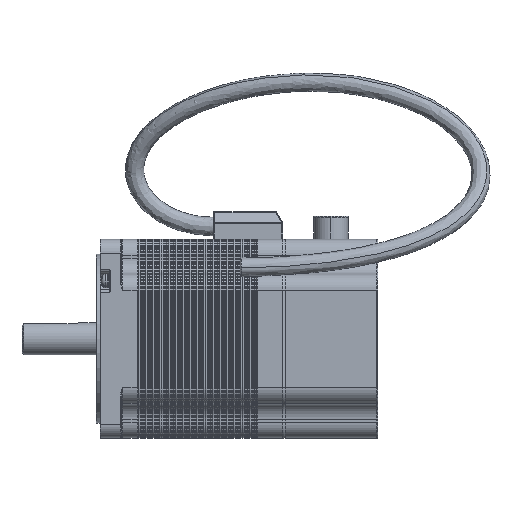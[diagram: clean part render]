
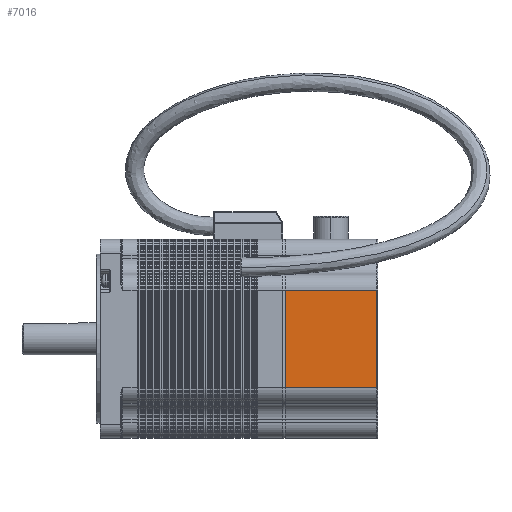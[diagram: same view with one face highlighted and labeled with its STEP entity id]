
A CAD part, left-side view. The second image highlights one B-rep face of the part: STEP entity #7016.
In plain terms, the highlighted planar face has unit normal (-1, 0, 0).
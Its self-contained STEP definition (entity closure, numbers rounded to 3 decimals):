
#3978 = ORIENTED_EDGE ( 'NONE', *, *, #87157, .F. ) ;
#4366 = DIRECTION ( 'NONE',  ( 1., 0., 0. ) ) ;
#7016 = ADVANCED_FACE ( 'NONE', ( #190772 ), #28940, .F. ) ;
#7747 = DIRECTION ( 'NONE',  ( 0., 1., 0. ) ) ;
#18090 = VERTEX_POINT ( 'NONE', #19540 ) ;
#19540 = CARTESIAN_POINT ( 'NONE',  ( -43., -80., -21. ) ) ;
#20540 = EDGE_CURVE ( 'NONE', #161950, #36432, #80663, .T. ) ;
#28940 = PLANE ( 'NONE',  #83568 ) ;
#28983 = VERTEX_POINT ( 'NONE', #174272 ) ;
#34146 = CARTESIAN_POINT ( 'NONE',  ( -43., -119.5, 21. ) ) ;
#34379 = VECTOR ( 'NONE', #65495, 1000. ) ;
#35979 = LINE ( 'NONE', #82072, #34379 ) ;
#36432 = VERTEX_POINT ( 'NONE', #53882 ) ;
#46240 = EDGE_LOOP ( 'NONE', ( #3978, #97466, #155598, #89748 ) ) ;
#53882 = CARTESIAN_POINT ( 'NONE',  ( -43., -80., 21. ) ) ;
#54767 = EDGE_CURVE ( 'NONE', #36432, #18090, #35979, .T. ) ;
#62355 = CARTESIAN_POINT ( 'NONE',  ( -43., -119.5, 21. ) ) ;
#65495 = DIRECTION ( 'NONE',  ( 0., 0., -1. ) ) ;
#78058 = DIRECTION ( 'NONE',  ( 0., 0., 1. ) ) ;
#80663 = LINE ( 'NONE', #185601, #128036 ) ;
#82072 = CARTESIAN_POINT ( 'NONE',  ( -43., -80., 21. ) ) ;
#83568 = AXIS2_PLACEMENT_3D ( 'NONE', #191744, #4366, #107211 ) ;
#87157 = EDGE_CURVE ( 'NONE', #28983, #18090, #100770, .T. ) ;
#89748 = ORIENTED_EDGE ( 'NONE', *, *, #54767, .T. ) ;
#97466 = ORIENTED_EDGE ( 'NONE', *, *, #123330, .T. ) ;
#100770 = LINE ( 'NONE', #128291, #130052 ) ;
#107211 = DIRECTION ( 'NONE',  ( 0., 0., -1. ) ) ;
#123330 = EDGE_CURVE ( 'NONE', #28983, #161950, #183940, .T. ) ;
#128036 = VECTOR ( 'NONE', #181771, 1000. ) ;
#128291 = CARTESIAN_POINT ( 'NONE',  ( -43., -120., -21. ) ) ;
#130052 = VECTOR ( 'NONE', #7747, 1000. ) ;
#155598 = ORIENTED_EDGE ( 'NONE', *, *, #20540, .T. ) ;
#161950 = VERTEX_POINT ( 'NONE', #34146 ) ;
#168379 = VECTOR ( 'NONE', #78058, 1000. ) ;
#174272 = CARTESIAN_POINT ( 'NONE',  ( -43., -119.5, -21. ) ) ;
#181771 = DIRECTION ( 'NONE',  ( 0., 1., 0. ) ) ;
#183940 = LINE ( 'NONE', #62355, #168379 ) ;
#185601 = CARTESIAN_POINT ( 'NONE',  ( -43., -120., 21. ) ) ;
#190772 = FACE_OUTER_BOUND ( 'NONE', #46240, .T. ) ;
#191744 = CARTESIAN_POINT ( 'NONE',  ( -43., -120., 21. ) ) ;
